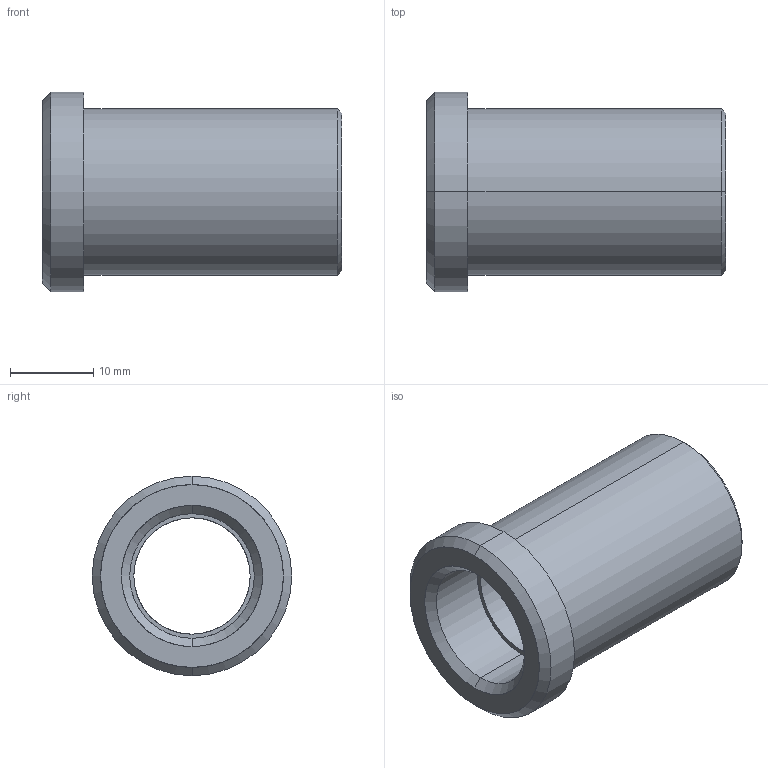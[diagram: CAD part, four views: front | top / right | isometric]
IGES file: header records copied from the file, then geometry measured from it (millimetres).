
Start section: START RECORD GO HERE.
Global section: file name: 353-14X36.igs; native system: DASSAULT SYSTEMES CATIA V5 R20 - www.3ds.com; preprocessor: CATIA Version 5 Release 20 ; author: Utente; organization: NB04-ASUS; date: 20210421.141727; units: millimetre
Bounding box: 36 x 24 x 24 mm (x, y, z)
Surface area: 4421.2 mm2 (no closed solid volume)
Topology: 0 solids, 0 shells, 20 faces, 128 edges, 128 vertices
Faces by surface type: revolution 16, plane 4
